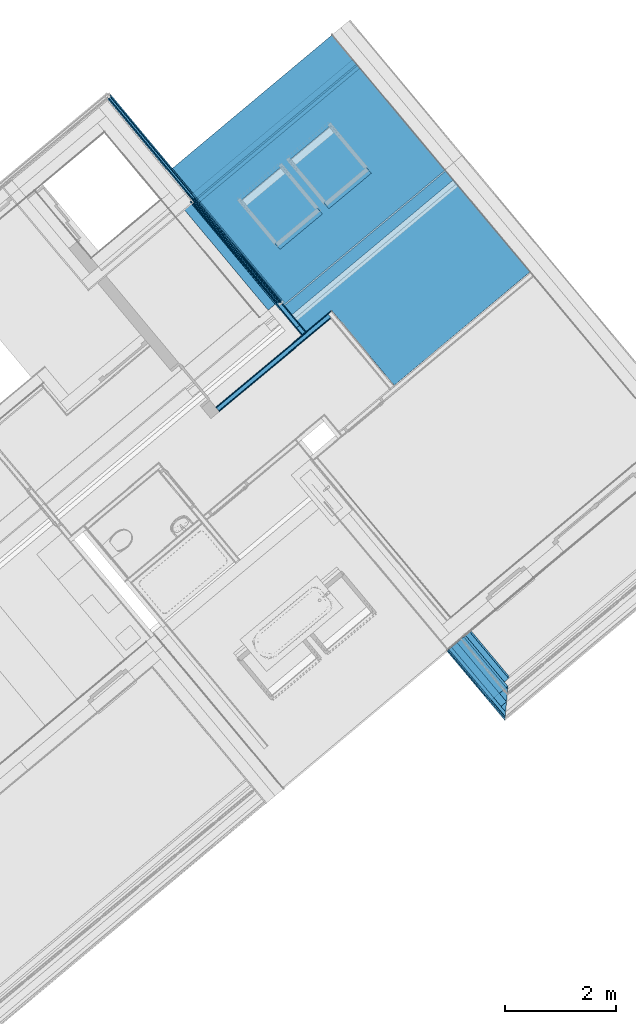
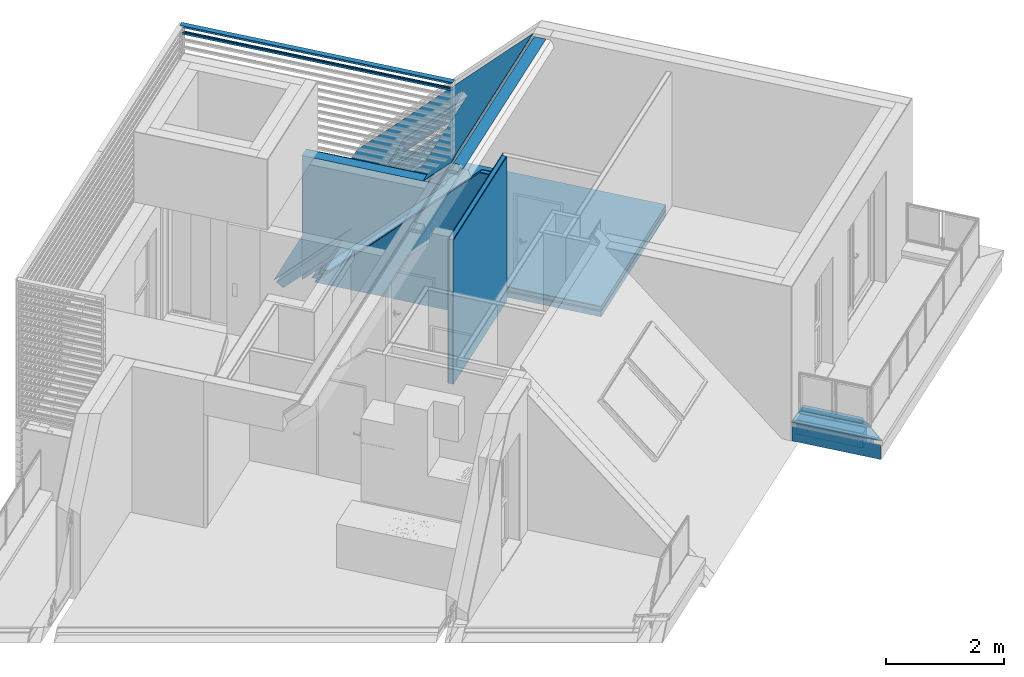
# One storey, part 29 of 47: 24 building element parts, 2 openings, 7 elements without a shape of their own.
"""IFC4 building model written with IfcOpenShell, lengths in metres."""

from ifc_helpers import new_model, entity, si_unit, converted_unit, derived_unit, direction, frame, origin_with_axes, place, context, subcontext, project, spatial, polygons, material, type_object, element, aggregate, save


model = new_model("IFC4")

# Units and contexts
model_context = context("Model", 3, precision=1e-05, world=origin_with_axes(), true_north=direction((0.0, 1.0)))
body_context = subcontext(model_context, "Body", "Model", "MODEL_VIEW")
ifc_project = project(units=[si_unit("LENGTHUNIT", "METRE"), si_unit("AREAUNIT", "SQUARE_METRE"), si_unit("VOLUMEUNIT", "CUBIC_METRE"), converted_unit("PLANEANGLEUNIT", "DEGREE", entity("IfcPlaneAngleMeasure", 0.0174532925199), si_unit("PLANEANGLEUNIT", "RADIAN"), dimensions=[0, 0, 0, 0, 0, 0, 0]), converted_unit("TIMEUNIT", "Year", entity("IfcTimeMeasure", 31556926.0), si_unit("TIMEUNIT", "SECOND"), dimensions=[0, 0, 1, 0, 0, 0, 0]), si_unit("MASSUNIT", "GRAM", prefix="KILO"), si_unit("THERMODYNAMICTEMPERATUREUNIT", "DEGREE_CELSIUS"), si_unit("LUMINOUSINTENSITYUNIT", "LUMEN"), si_unit("ENERGYUNIT", "JOULE", prefix="MEGA"), derived_unit("THERMALCONDUCTANCEUNIT", [(si_unit("POWERUNIT", "WATT"), 1), (si_unit("LENGTHUNIT", "METRE"), -1), (si_unit("THERMODYNAMICTEMPERATUREUNIT", "KELVIN"), -1)]), derived_unit("SPECIFICHEATCAPACITYUNIT", [(si_unit("ENERGYUNIT", "JOULE"), 1), (si_unit("MASSUNIT", "GRAM", prefix="KILO"), -1), (si_unit("THERMODYNAMICTEMPERATUREUNIT", "KELVIN"), -1)]), derived_unit("MASSDENSITYUNIT", [(si_unit("MASSUNIT", "GRAM", prefix="KILO"), 1), (si_unit("VOLUMEUNIT", "CUBIC_METRE"), -1)])], contexts=[model_context])

# Site, building, storey
site_placement = place(None, frame((-0.00153261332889, -0.00661245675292, 0.0), z_axis=(0.0, 0.0, 1.0), x_axis=(1.0, 0.0, 0.0)))
site = spatial("IfcSite", under=ifc_project, at=site_placement, Name="Site", CompositionType="ELEMENT")
building_placement = place(site_placement, origin_with_axes())
building = spatial("IfcBuilding", under=site, at=building_placement, Name="Building", CompositionType="ELEMENT")
storey_placement = place(building_placement, frame((0.0, 0.0, 8.66), z_axis=(0.0, 0.0, 1.0), x_axis=(1.0, 0.0, 0.0)))
storey = spatial("IfcBuildingStorey", under=building, at=storey_placement, Name="DG2", CompositionType="ELEMENT", Elevation=8.66)

# Wall, building element parts
wall_type_1 = type_object("IfcWallType", Name="Bauteil - Attika Terrasse 1.DG 574 x 410", PredefinedType="NOTDEFINED")
wall_1_placement = place(storey_placement, frame((8.86706086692, 16.7682826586, -0.2), z_axis=(0.0, 0.0, 1.0), x_axis=(-0.641709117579, 0.766948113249, 0.0)))
wall_1 = element("IfcWall", 1, at=wall_1_placement, inside=storey, type_object=wall_type_1, Name="Wand-004", PredefinedType="NOTDEFINED")
ifc_material_1 = material(Name="Zementputz")
building_element_part_1_placement = place(wall_1_placement, origin_with_axes())
building_element_part_1 = element("IfcBuildingElementPart", 2, at=building_element_part_1_placement, material=ifc_material_1, Name="Zementputz", PredefinedType="NOTDEFINED", context=body_context, shape_type="Tessellation", body=[
    polygons([(-0.199999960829, 0.214999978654, 0.499999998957), (-0.199999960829, 0.199999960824, 0.499999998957), (1.39632208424, 0.199999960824, 0.499999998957), (1.39632208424, 0.214999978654, 0.499999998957), (-0.199999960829, 0.199999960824, 0.498822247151), (-0.199999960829, 0.214999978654, 0.498822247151), (-0.199999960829, 0.199999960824, 0.49100648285), (-0.199999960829, 0.199999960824, 0.488695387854), (-0.199999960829, 0.199999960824, 0.335), (-0.199999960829, 0.199999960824, 0.2), (1.39632208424, 0.199999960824, 0.2), (1.39632208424, 0.214999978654, 0.2), (-0.199999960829, 0.214999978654, 0.2), (-0.199999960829, 0.214999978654, 0.335), (-0.199999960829, 0.214999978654, 0.488695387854), (-0.199999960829, 0.214999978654, 0.49100648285)], [[[1, 2, 3, 4]], [[5, 2, 1, 6]], [[2, 5, 7, 8, 9, 10, 11, 3]], [[12, 4, 3, 11]], [[6, 1, 4, 12, 13, 14, 15, 16]], [[5, 6, 16, 7]], [[7, 16, 15, 8]], [[8, 15, 14, 9]], [[9, 14, 13, 10]], [[10, 13, 12, 11]]], closed=True),
])
ifc_material_2 = material(Name="Vollholz")
building_element_part_2_placement = place(wall_1_placement, origin_with_axes())
building_element_part_2 = element("IfcBuildingElementPart", 3, at=building_element_part_2_placement, material=ifc_material_2, Name="Vollholz", PredefinedType="NOTDEFINED", context=body_context, shape_type="Tessellation", body=[
    polygons([(-0.189984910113, 0.189984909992, 0.586106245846), (-0.130124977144, 0.130124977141, 0.584015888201), (1.39632208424, 0.130124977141, 0.584015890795), (1.39632208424, 0.189984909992, 0.586106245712), (-0.130124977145, 0.189996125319, 0.584015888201), (-0.130124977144, 0.130124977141, 0.575979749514), (-0.130124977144, 0.130124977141, 0.573880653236), (-0.130124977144, 0.130124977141, 0.567947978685), (-0.130124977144, 0.130124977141, 0.560000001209), (1.39632208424, 0.130124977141, 0.560000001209), (1.39632208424, 0.190124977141, 0.560000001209), (-0.130124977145, 0.190124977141, 0.560000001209), (-0.130124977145, 0.190082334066, 0.567947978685), (-0.130124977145, 0.190050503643, 0.573880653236), (-0.130124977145, 0.190039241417, 0.575979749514)], [[[1, 2, 3, 4]], [[5, 2, 1]], [[2, 6, 7, 8, 9, 10, 3]], [[3, 10, 11, 4]], [[5, 1, 4, 11, 12, 13, 14, 15]], [[2, 5, 15, 6]], [[6, 15, 14, 7]], [[7, 14, 13, 8]], [[8, 13, 12, 9]], [[9, 12, 11, 10]]], closed=True),
])
ifc_material_3 = material(Name="EPS 1")
building_element_part_3_placement = place(wall_1_placement, origin_with_axes())
building_element_part_3 = element("IfcBuildingElementPart", 4, at=building_element_part_3_placement, material=ifc_material_3, Name="EPS 1", PredefinedType="NOTDEFINED", context=body_context, shape_type="Tessellation", body=[
    polygons([(-2.44570586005e-10, 0.19999996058, 0.499999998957), (-2.39910313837e-10, 2.39914754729e-10, 0.499999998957), (1.39632208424, 2.39911202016e-10, 0.499999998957), (1.39632208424, 0.19999996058, 0.499999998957), (-2.39909425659e-10, 2.39914754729e-10, 0.498822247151), (-2.44572362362e-10, 0.19999996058, 0.498822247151), (-2.39909425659e-10, 2.39914754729e-10, 0.49100648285), (-2.39909425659e-10, 2.39914754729e-10, 0.488695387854), (-2.39909425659e-10, 2.39914754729e-10, 0.335), (-2.39910313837e-10, 2.39914754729e-10, 0.2), (1.39632208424, 2.39911202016e-10, 0.2), (1.39632208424, 0.19999996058, 0.2), (-2.44570586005e-10, 0.19999996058, 0.2), (-2.44572362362e-10, 0.19999996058, 0.335), (-2.44572362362e-10, 0.19999996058, 0.488695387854), (-2.44572362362e-10, 0.19999996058, 0.49100648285)], [[[1, 2, 3, 4]], [[5, 2, 1, 6]], [[2, 5, 7, 8, 9, 10, 11, 3]], [[11, 12, 4, 3]], [[6, 1, 4, 12, 13, 14, 15, 16]], [[5, 6, 16, 7]], [[7, 16, 15, 8]], [[8, 15, 14, 9]], [[9, 14, 13, 10]], [[10, 13, 12, 11]]], closed=True),
])
ifc_material_4 = material(Name="Brettschichtholz")
building_element_part_4_placement = place(wall_1_placement, origin_with_axes())
building_element_part_4 = element("IfcBuildingElementPart", 5, at=building_element_part_4_placement, material=ifc_material_4, Name="Brettschichtholz", PredefinedType="NOTDEFINED", context=body_context, shape_type="Tessellation", body=[
    polygons([(0.200000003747, -0.159999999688, 0.559999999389), (0.200000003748, -0.200000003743, 0.559999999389), (1.39632208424, -0.200000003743, 0.559999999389), (1.39632208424, -0.159999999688, 0.559999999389), (0.200000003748, -0.200000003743, 0.519224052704), (0.200000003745, -0.100000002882, 0.559999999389), (0.20000000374, 0.130124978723, 0.559999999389), (0.200000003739, 0.190124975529, 0.559999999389), (0.200000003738, 0.214999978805, 0.559999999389), (0.200000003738, 0.214999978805, 0.519224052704), (0.200000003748, -0.200000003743, 0.511361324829), (0.200000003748, -0.200000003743, 0.50905023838), (0.200000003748, -0.200000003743, 0.500000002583), (1.39632208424, -0.200000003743, 0.500000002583), (1.39632208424, 0.214999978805, 0.499999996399), (1.39632208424, 0.214999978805, 0.559999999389), (1.39632208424, 0.190124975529, 0.559999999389), (1.39632208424, 0.130124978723, 0.559999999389), (1.39632208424, -0.100000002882, 0.559999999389), (0.200000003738, 0.214999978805, 0.500000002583), (0.200000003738, 0.214999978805, 0.50905023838), (0.200000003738, 0.214999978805, 0.511361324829)], [[[1, 2, 3, 4]], [[5, 2, 1, 6, 7, 8, 9, 10]], [[2, 5, 11, 12, 13, 14, 3]], [[14, 15, 16, 17, 18, 19, 4, 3]], [[6, 1, 4, 19]], [[7, 6, 19, 18]], [[8, 7, 18, 17]], [[9, 8, 17, 16]], [[10, 9, 16, 15, 20, 21, 22]], [[5, 10, 22, 11]], [[11, 22, 21, 12]], [[12, 21, 20, 13]], [[13, 20, 15, 14]]], closed=True),
])
ifc_material_5 = material(Name="Stahlbeton")
building_element_part_5_placement = place(wall_1_placement, origin_with_axes())
building_element_part_5 = element("IfcBuildingElementPart", 6, at=building_element_part_5_placement, material=ifc_material_5, Name="Stahlbeton", PredefinedType="NOTDEFINED", context=body_context, shape_type="Tessellation", body=[
    polygons([(0.199999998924, -1.8283543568e-09, 0.500000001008), (0.199999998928, -0.199999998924, 0.500000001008), (1.39632208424, -0.199999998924, 0.500000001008), (1.39632208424, -1.8283543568e-09, 0.500000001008), (0.199999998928, -0.199999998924, 0.498822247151), (0.199999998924, -1.8283543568e-09, 0.498822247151), (0.199999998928, -0.199999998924, 0.49100648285), (0.199999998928, -0.199999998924, 0.488695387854), (0.199999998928, -0.199999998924, 0.335), (1.39632208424, -0.199999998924, 0.335000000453), (1.39632208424, -0.199999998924, 0.2), (1.39632208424, -1.8283543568e-09, 0.2), (0.199999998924, -1.8283543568e-09, 0.2), (0.199999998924, -1.8283543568e-09, 0.335), (0.199999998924, -1.8283543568e-09, 0.488695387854), (0.199999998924, -1.8283543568e-09, 0.49100648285), (0.199999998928, -0.199999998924, 0.2)], [[[1, 2, 3, 4]], [[5, 2, 1, 6]], [[2, 5, 7, 8, 9, 10, 3]], [[11, 12, 4, 3, 10]], [[6, 1, 4, 12, 13, 14, 15, 16]], [[5, 6, 16, 7]], [[7, 16, 15, 8]], [[8, 15, 14, 9]], [[9, 17, 11, 10]], [[17, 13, 12, 11]], [[9, 14, 13, 17]]], closed=True),
])
building_element_part_6_placement = place(wall_1_placement, origin_with_axes())
building_element_part_6 = element("IfcBuildingElementPart", 7, at=building_element_part_6_placement, material=ifc_material_2, Name="Vollholz", PredefinedType="NOTDEFINED", context=body_context, shape_type="Tessellation", body=[
    polygons([(0.100000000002, -0.1, 0.575979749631), (0.160110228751, -0.160110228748, 0.573880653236), (1.39632208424, -0.160110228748, 0.573880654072), (1.39632208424, -0.1, 0.575979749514), (0.16011022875, -0.1, 0.573880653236), (0.160063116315, -0.160063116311, 0.567947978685), (0.160000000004, -0.16, 0.560000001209), (1.39632208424, -0.16, 0.560000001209), (1.39632208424, -0.1, 0.560000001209), (0.160000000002, -0.1, 0.560000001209), (0.160063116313, -0.1, 0.567947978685)], [[[1, 2, 3, 4]], [[5, 2, 1]], [[2, 6, 7, 8, 3]], [[3, 8, 9, 4]], [[5, 1, 4, 9, 10, 11]], [[2, 5, 11, 6]], [[6, 11, 10, 7]], [[7, 10, 9, 8]]], closed=True),
])
building_element_part_7_placement = place(wall_1_placement, origin_with_axes())
building_element_part_7 = element("IfcBuildingElementPart", 8, at=building_element_part_7_placement, material=ifc_material_3, Name="EPS 1", PredefinedType="NOTDEFINED", context=body_context, shape_type="Tessellation", body=[
    polygons([(0.300000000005, -0.2, 0.560000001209), (0.300000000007, -0.3, 0.560000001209), (1.39632208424, -0.3, 0.560000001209), (1.39632208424, -0.2, 0.560000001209), (0.300000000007, -0.3, 0.519224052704), (0.300000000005, -0.2, 0.519224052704), (0.300000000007, -0.3, 0.511361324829), (0.300000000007, -0.3, 0.50905023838), (0.300000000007, -0.3, 0.499999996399), (0.300000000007, -0.3, 0.498822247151), (0.300000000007, -0.3, 0.49100648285), (0.300000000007, -0.3, 0.488695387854), (0.300000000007, -0.3, 0.335), (1.39632208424, -0.3, 0.335), (1.39632208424, -0.2, 0.335), (0.300000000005, -0.2, 0.335), (0.300000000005, -0.2, 0.488695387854), (0.300000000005, -0.2, 0.49100648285), (0.300000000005, -0.2, 0.498822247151), (0.300000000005, -0.2, 0.499999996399), (0.300000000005, -0.2, 0.50905023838), (0.300000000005, -0.2, 0.511361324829)], [[[1, 2, 3, 4]], [[5, 2, 1, 6]], [[2, 5, 7, 8, 9, 10, 11, 12, 13, 14, 3]], [[14, 15, 4, 3]], [[6, 1, 4, 15, 16, 17, 18, 19, 20, 21, 22]], [[5, 6, 22, 7]], [[7, 22, 21, 8]], [[8, 21, 20, 9]], [[9, 20, 19, 10]], [[10, 19, 18, 11]], [[11, 18, 17, 12]], [[12, 17, 16, 13]], [[13, 16, 15, 14]]], closed=True),
])
ifc_material_6 = material(Name="Holzwerkstoff")
building_element_part_8_placement = place(wall_1_placement, origin_with_axes())
building_element_part_8 = element("IfcBuildingElementPart", 9, at=building_element_part_8_placement, material=ifc_material_6, Name="Holzwerkstoff", PredefinedType="NOTDEFINED", context=body_context, shape_type="Tessellation", body=[
    polygons([(1.39632208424, -0.100000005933, 0.575979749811), (1.39632208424, -0.160110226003, 0.573880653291), (0.330207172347, -0.160110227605, 0.573880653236), (0.33028047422, -0.100000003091, 0.57597974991), (1.39632208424, 0.189984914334, 0.586106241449), (1.39632208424, 0.239999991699, 0.587852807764), (1.39632208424, 0.239276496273, 0.608570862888), (1.39632208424, -0.330698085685, 0.587938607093), (1.39632208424, -0.329999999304, 0.567947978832), (1.39632208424, 0.130124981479, 0.584015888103), (0.32999999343, -0.329999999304, 0.567947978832), (0.330207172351, -0.330207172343, 0.573880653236), (0.330280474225, -0.330280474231, 0.57597974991), (0.330561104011, 0.13012498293, 0.584015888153), (0.330634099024, 0.189984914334, 0.586106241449), (0.330695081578, 0.239999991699, 0.587852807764), (0.330698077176, 0.23999699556, 0.587938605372), (-0.239276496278, 0.239276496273, 0.608570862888), (0.330698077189, -0.330698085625, 0.587938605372), (0.330634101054, -0.330634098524, 0.586106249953), (0.330561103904, -0.330561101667, 0.584015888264)], [[[1, 2, 3, 4]], [[5, 6, 7, 8, 9, 2, 1, 10]], [[2, 9, 11, 3]], [[4, 3, 12, 13]], [[10, 1, 4, 14]], [[6, 5, 15, 16]], [[6, 16, 17, 18, 7]], [[8, 7, 18, 19]], [[9, 8, 19, 20, 21, 13, 12, 11]], [[5, 10, 14, 15]], [[11, 12, 3]], [[14, 4, 13, 21]], [[16, 15, 20, 19, 17]], [[18, 17, 19]], [[15, 14, 21, 20]]], closed=True),
])
aggregate(wall_1, [building_element_part_1, building_element_part_2, building_element_part_3, building_element_part_4, building_element_part_5, building_element_part_6, building_element_part_7, building_element_part_8])

wall_type_2 = type_object("IfcWallType", Name="IW LB 01 Leichtbautrennwand einfach 10,5 cm 105", PredefinedType="NOTDEFINED")
wall_2_placement = place(storey_placement, frame((5.70401379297, 23.8415835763, 0.0), z_axis=(0.0, 0.0, 1.0), x_axis=(-0.767670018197, -0.640845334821, 0.0)))
wall_2 = element("IfcWall", 10, at=wall_2_placement, inside=storey, type_object=wall_type_2, Name="Wand-014", PredefinedType="NOTDEFINED")
ifc_material_7 = material(Name="Gipskarton")
building_element_part_9_placement = place(wall_2_placement, origin_with_axes())
building_element_part_9 = element("IfcBuildingElementPart", 11, at=building_element_part_9_placement, material=ifc_material_7, Name="Gipskarton", PredefinedType="NOTDEFINED", context=body_context, shape_type="Tessellation", body=[
    polygons([(2.72786789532, 0.09, 0.0), (0.104958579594, 0.09, 0.0), (0.104951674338, 0.105, 0.0), (2.72786744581, 0.105, 0.0), (2.72786789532, 0.09, 2.98), (0.104958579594, 0.09, 2.98), (0.104951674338, 0.105, 2.98), (2.72786744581, 0.105, 2.98)], [[[1, 2, 3, 4]], [[5, 6, 2, 1]], [[3, 2, 6, 7]], [[4, 3, 7, 8]], [[4, 8, 5, 1]], [[8, 7, 6, 5]]], closed=True),
])
ifc_material_8 = material(Name="Mineralwolle weich")
building_element_part_10_placement = place(wall_2_placement, origin_with_axes())
building_element_part_10 = element("IfcBuildingElementPart", 12, at=building_element_part_10_placement, material=ifc_material_8, Name="Mineralwolle weich", PredefinedType="NOTDEFINED", context=body_context, shape_type="Tessellation", body=[
    polygons([(2.72787014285, 0.015, 0.0), (0.0899931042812, 0.015, 0.0), (0.0899585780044, 0.09, 0.0), (2.72786789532, 0.09, 0.0), (2.72787014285, 0.015, 2.98), (0.0899931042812, 0.015, 2.98), (0.0899585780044, 0.09, 2.98), (2.72786789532, 0.09, 2.98)], [[[1, 2, 3, 4]], [[5, 6, 2, 1]], [[3, 2, 6, 7]], [[4, 3, 7, 8]], [[4, 8, 5, 1]], [[8, 7, 6, 5]]], closed=True),
])
building_element_part_11_placement = place(wall_2_placement, origin_with_axes())
building_element_part_11 = element("IfcBuildingElementPart", 13, at=building_element_part_11_placement, material=ifc_material_7, Name="Gipskarton", PredefinedType="NOTDEFINED", context=body_context, shape_type="Tessellation", body=[
    polygons([(2.72787059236, 0.0, 0.0), (0.0150000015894, 0.0, 0.0), (0.0149930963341, 0.015, 0.0), (2.72787014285, 0.015, 0.0), (2.72787059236, 0.0, 2.98), (0.0150000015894, 0.0, 2.98), (0.0149930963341, 0.015, 2.98), (2.72787014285, 0.015, 2.98)], [[[1, 2, 3, 4]], [[5, 6, 2, 1]], [[3, 2, 6, 7]], [[4, 3, 7, 8]], [[4, 8, 5, 1]], [[8, 7, 6, 5]]], closed=True),
])
aggregate(wall_2, [building_element_part_9, building_element_part_10, building_element_part_11])

# Curtain wall, building element parts
curtain_wall_type = type_object("IfcCurtainWallType", Name="Fassadentyp", PredefinedType="NOTDEFINED")
curtain_wall_placement = place(storey_placement, frame((3.22758193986, 25.8519152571, 0.32), z_axis=(0.0, 0.0, 1.0), x_axis=(1.0, 0.0, 0.0)))
curtain_wall = element("IfcCurtainWall", 14, at=curtain_wall_placement, inside=storey, type_object=curtain_wall_type, Name="Fassade-001", PredefinedType="NOTDEFINED")
ifc_material_9 = material(Name="Blech")
building_element_part_12_placement = place(curtain_wall_placement, origin_with_axes())
building_element_part_12 = element("IfcBuildingElementPart", 15, at=building_element_part_12_placement, material=ifc_material_9, Name="Blech", PredefinedType="NOTDEFINED", context=body_context, shape_type="Tessellation", body=[
    polygons([(-1.56506390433, 1.85045496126, 4.2), (-1.56506390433, 1.85045496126, 4.22), (1.54203854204, -1.86968599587, 4.22), (1.54203854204, -1.86968599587, 4.2), (1.54203854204, -1.86968599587, 4.18), (-1.56506390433, 1.85045496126, 4.18), (-1.57657658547, 1.84083944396, 4.18), (-1.57657658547, 1.84083944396, 4.22), (1.5305258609, -1.87930151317, 4.22), (1.5305258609, -1.87930151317, 4.18)], [[[1, 2, 3, 4, 5, 6]], [[6, 7, 8, 2, 1]], [[3, 2, 8, 9]], [[4, 3, 9, 10, 5]], [[5, 10, 7, 6]], [[10, 9, 8, 7]]], closed=True),
    polygons([(1.56506390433, -1.85045496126, 4.18), (1.57657658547, -1.84083944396, 4.18), (1.57657658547, -1.84083944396, 4.22), (1.56506390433, -1.85045496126, 4.22), (1.56506390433, -1.85045496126, 4.2), (-1.54203854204, 1.86968599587, 4.18), (-1.5305258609, 1.87930151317, 4.18), (-1.5305258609, 1.87930151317, 4.22), (-1.54203854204, 1.86968599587, 4.22), (-1.54203854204, 1.86968599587, 4.2)], [[[1, 2, 3, 4, 5]], [[6, 7, 2, 1]], [[3, 2, 7, 8]], [[9, 4, 3, 8]], [[5, 4, 9, 10, 6, 1]], [[10, 9, 8, 7, 6]]], closed=True),
])
building_element_part_13_placement = place(curtain_wall_placement, origin_with_axes())
building_element_part_13 = element("IfcBuildingElementPart", 16, at=building_element_part_13_placement, material=ifc_material_9, Name="Blech", PredefinedType="NOTDEFINED", context=body_context, shape_type="Tessellation", body=[
    polygons([(1.55485923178, -1.88503623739, 4.35000006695), (1.57788459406, -1.86580520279, 4.35000006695), (1.56506390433, -1.85045496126, 4.33000006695), (1.59192682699, -1.82801875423, 4.33000006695), (1.61756820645, -1.85871923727, 4.37000006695), (1.54081699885, -1.92282268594, 4.37000006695), (1.51517561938, -1.8921222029, 4.33000006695), (1.54203854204, -1.86968599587, 4.33000006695), (-1.57788459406, 1.86580520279, 4.35000006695), (-1.55485923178, 1.88503623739, 4.35000006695), (-1.54203854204, 1.86968599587, 4.33000006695), (-1.51517561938, 1.8921222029, 4.33000006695), (-1.54081699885, 1.92282268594, 4.37000006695), (-1.61756820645, 1.85871923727, 4.37000006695), (-1.59192682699, 1.82801875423, 4.33000006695), (-1.56506390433, 1.85045496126, 4.33000006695)], [[[1, 2, 3, 4, 5, 6, 7, 8]], [[2, 1, 9, 10]], [[11, 3, 2, 10]], [[3, 11, 12, 4]], [[5, 4, 12, 13]], [[6, 5, 13, 14]], [[7, 6, 14, 15]], [[16, 8, 7, 15]], [[1, 8, 16, 9]], [[9, 16, 15, 14, 13, 12, 11, 10]]], closed=True),
])
aggregate(curtain_wall, [building_element_part_12, building_element_part_13])

# Wall, building element parts
wall_3_placement = place(storey_placement, frame((5.2437894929, 23.4573916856, 0.0), z_axis=(0.0, 0.0, 1.0), x_axis=(-0.641307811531, 0.767283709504, 0.0)))
wall_3 = element("IfcWall", 17, at=wall_3_placement, inside=storey, type_object=wall_type_2, Name="Wand-014", PredefinedType="NOTDEFINED")
building_element_part_14_placement = place(wall_3_placement, origin_with_axes())
building_element_part_14 = element("IfcBuildingElementPart", 18, at=building_element_part_14_placement, material=ifc_material_7, Name="Gipskarton", PredefinedType="NOTDEFINED", context=body_context, shape_type="Tessellation", body=[
    polygons([(3.14396847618, 0.09, 0.0), (0.163968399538, 0.09, 2.98), (5.42334363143e-05, 0.09, 2.98), (5.42334363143e-05, 0.09, 0.0), (0.163971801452, 0.105, 2.98), (3.14397188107, 0.105000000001, -2.97520585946e-09), (6.32723423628e-05, 0.105, 2.98), (6.32723423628e-05, 0.105, 0.0)], [[[1, 2, 3, 4]], [[5, 2, 1, 6]], [[2, 5, 7, 3]], [[4, 3, 7, 8]], [[6, 1, 4, 8]], [[5, 6, 8, 7]]], closed=True),
])
building_element_part_15_placement = place(wall_3_placement, origin_with_axes())
building_element_part_15 = element("IfcBuildingElementPart", 19, at=building_element_part_15_placement, material=ifc_material_8, Name="Mineralwolle weich", PredefinedType="NOTDEFINED", context=body_context, shape_type="Tessellation", body=[
    polygons([(3.14395146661, 0.015, 0.0), (0.163947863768, 0.0149999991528, 2.9800035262), (9.03890605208e-06, 0.015, 2.98), (9.03890605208e-06, 0.015, 0.0), (0.163968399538, 0.09, 2.98), (3.14397018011, 0.0900000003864, -1.70393192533e-06), (5.42334363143e-05, 0.09, 2.98), (5.42334363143e-05, 0.09, 0.0)], [[[1, 2, 3, 4]], [[5, 2, 1, 6]], [[2, 5, 7, 3]], [[4, 3, 7, 8]], [[6, 1, 4, 8]], [[5, 6, 8, 7]]], closed=True),
])
building_element_part_16_placement = place(wall_3_placement, origin_with_axes())
building_element_part_16 = element("IfcBuildingElementPart", 20, at=building_element_part_16_placement, material=ifc_material_7, Name="Gipskarton", PredefinedType="NOTDEFINED", context=body_context, shape_type="Tessellation", body=[
    polygons([(3.1439480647, 0.0, 0.0), (0.163947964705, 0.0, 2.98000002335), (0.0, 0.0, 2.98), (0.0, 0.0, 0.0), (0.163951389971, 0.015, 2.98), (3.14395146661, 0.015, 0.0), (9.03890605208e-06, 0.015, 2.98), (9.03890605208e-06, 0.015, 0.0)], [[[1, 2, 3, 4]], [[5, 2, 1, 6]], [[2, 5, 7, 3]], [[4, 3, 7, 8]], [[6, 1, 4, 8]], [[5, 6, 8, 7]]], closed=True),
])
aggregate(wall_3, [building_element_part_14, building_element_part_15, building_element_part_16])

# Covering, building element parts
covering_type = type_object("IfcCoveringType", Name="DE 01 Decke Wohnung/Wohnung Parkett 220", PredefinedType="NOTDEFINED")
covering_placement = place(storey_placement, frame((6.83696947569, 22.4856827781, 0.22), z_axis=(0.0, 0.0, 1.0), x_axis=(1.0, 0.0, 0.0)))
covering = element("IfcCovering", 21, at=covering_placement, inside=storey, type_object=covering_type, Name="Decke-009", PredefinedType="NOTDEFINED")
ifc_material_10 = material(Name="Parkett")
building_element_part_17_placement = place(covering_placement, origin_with_axes())
building_element_part_17 = element("IfcBuildingElementPart", 22, at=building_element_part_17_placement, material=ifc_material_10, Name="Parkett", PredefinedType="NOTDEFINED", context=body_context, shape_type="Tessellation", body=[
    polygons([(-0.620803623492, 5.73266490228, -0.015), (-0.611185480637, 5.72115441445, 0.0), (2.45515313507, 2.05152152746, 0.0), (2.45515313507, 2.05152152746, -0.015), (-3.52550376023, 3.28644375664, 0.0), (-3.53511644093, 3.29795880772, -0.015), (-1.59317998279, 0.971708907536, 0.0), (-1.13295568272, 1.35590079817, 0.0), (0.0, 0.0, 0.0), (0.0, 0.0, -0.015), (-1.13295568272, 1.35590079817, -0.015), (-1.59317998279, 0.971708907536, -0.015)], [[[1, 2, 3, 4]], [[5, 2, 1, 6]], [[2, 5, 7, 8, 9, 3]], [[10, 4, 3, 9]], [[6, 1, 4, 10, 11, 12]], [[5, 6, 12, 7]], [[7, 12, 11, 8]], [[8, 11, 10, 9]]], closed=True),
])
ifc_material_11 = material(Name="Estrich")
building_element_part_18_placement = place(covering_placement, origin_with_axes())
building_element_part_18 = element("IfcBuildingElementPart", 23, at=building_element_part_18_placement, material=ifc_material_11, Name="Estrich", PredefinedType="NOTDEFINED", context=body_context, shape_type="Tessellation", body=[
    polygons([(-0.662482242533, 5.7825436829, -0.08), (-0.620803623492, 5.73266490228, -0.015), (2.45515313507, 2.05152152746, -0.015), (2.45515313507, 2.05152152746, -0.08), (-3.53511644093, 3.29795880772, -0.015), (-3.57677139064, 3.34785736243, -0.08), (-1.59317998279, 0.971708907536, -0.015), (-1.13295568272, 1.35590079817, -0.015), (0.0, 0.0, -0.015), (0.0, 0.0, -0.08), (-1.13295568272, 1.35590079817, -0.08), (-1.59317998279, 0.971708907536, -0.08)], [[[1, 2, 3, 4]], [[5, 2, 1, 6]], [[2, 5, 7, 8, 9, 3]], [[10, 4, 3, 9]], [[6, 1, 4, 10, 11, 12]], [[5, 6, 12, 7]], [[7, 12, 11, 8]], [[8, 11, 10, 9]]], closed=True),
])
ifc_material_12 = material(Name="Trittschalldämmung")
building_element_part_19_placement = place(covering_placement, origin_with_axes())
building_element_part_19 = element("IfcBuildingElementPart", 24, at=building_element_part_19_placement, material=ifc_material_12, Name="Trittschalldämmung", PredefinedType="NOTDEFINED", context=body_context, shape_type="Tessellation", body=[
    polygons([(-0.681718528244, 5.80556465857, -0.11), (-0.662482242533, 5.7825436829, -0.08), (2.45515313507, 2.05152152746, -0.08), (2.45515313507, 2.05152152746, -0.11), (-3.57677139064, 3.34785736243, -0.08), (-3.59599675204, 3.3708874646, -0.11), (-1.59317998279, 0.971708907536, -0.08), (-1.13295568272, 1.35590079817, -0.08), (0.0, 0.0, -0.08), (0.0, 0.0, -0.11), (-1.13295568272, 1.35590079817, -0.11), (-1.59317998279, 0.971708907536, -0.11)], [[[1, 2, 3, 4]], [[5, 2, 1, 6]], [[2, 5, 7, 8, 9, 3]], [[10, 4, 3, 9]], [[6, 1, 4, 10, 11, 12]], [[5, 6, 12, 7]], [[7, 12, 11, 8]], [[8, 11, 10, 9]]], closed=True),
])
ifc_material_13 = material(Name="Schüttung")
building_element_part_20_placement = place(covering_placement, origin_with_axes())
building_element_part_20 = element("IfcBuildingElementPart", 25, at=building_element_part_20_placement, material=ifc_material_13, Name="Schüttung", PredefinedType="NOTDEFINED", context=body_context, shape_type="Tessellation", body=[
    polygons([(-0.752251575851, 5.8899749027, -0.22), (-0.681718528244, 5.80556465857, -0.11), (2.45515313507, 2.05152152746, -0.11), (2.45515313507, 2.05152152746, -0.22), (-3.59599675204, 3.3708874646, -0.11), (-3.66648974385, 3.45533117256, -0.22), (-1.59317998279, 0.971708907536, -0.11), (-1.13295568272, 1.35590079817, -0.11), (0.0, 0.0, -0.11), (0.0, 0.0, -0.22), (-1.13295568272, 1.35590079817, -0.22), (-1.59317998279, 0.971708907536, -0.22)], [[[1, 2, 3, 4]], [[5, 2, 1, 6]], [[2, 5, 7, 8, 9, 3]], [[10, 4, 3, 9]], [[6, 1, 4, 10, 11, 12]], [[5, 6, 12, 7]], [[8, 7, 12, 11]], [[9, 8, 11, 10]]], closed=True),
])
aggregate(covering, [building_element_part_17, building_element_part_18, building_element_part_19, building_element_part_20])

# Wall, building element parts
wall_type_3 = type_object("IfcWallType", Name="AW EG 420", PredefinedType="NOTDEFINED")
wall_4_placement = place(storey_placement, frame((3.07610660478, 25.9561233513, 0.0), z_axis=(0.0, 0.0, 1.0), x_axis=(0.640875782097, -0.767644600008, 0.0)))
wall_4 = element("IfcWall", 26, at=wall_4_placement, inside=storey, type_object=wall_type_3, Name="Wand-002", PredefinedType="NOTDEFINED")
building_element_part_21_placement = place(wall_4_placement, origin_with_axes())
building_element_part_21 = element("IfcBuildingElementPart", 27, at=building_element_part_21_placement, material=ifc_material_1, Name="Zementputz", PredefinedType="NOTDEFINED", context=body_context, shape_type="Tessellation", body=[
    polygons([(3.26245261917e-06, -0.0150000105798, 2.69), (3.26245261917e-06, -0.0150000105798, 0.119414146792), (2.57058840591, -0.015, 2.69), (0.0, 3.87430532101e-09, 2.69), (0.0, 3.87430532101e-09, 0.119416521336), (2.57058840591, 0.0, 2.69)], [[[1, 2, 3]], [[2, 1, 4, 5]], [[2, 5, 6, 3]], [[4, 1, 3, 6]], [[4, 6, 5]]], closed=True),
])
building_element_part_22_placement = place(wall_4_placement, origin_with_axes())
building_element_part_22 = element("IfcBuildingElementPart", 28, at=building_element_part_22_placement, material=ifc_material_3, Name="EPS 1", PredefinedType="NOTDEFINED", context=body_context, shape_type="Tessellation", body=[
    polygons([(4.67617913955e-05, -0.215000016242, 0.119382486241), (4.67617913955e-05, -0.215000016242, 2.69), (3.26245261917e-06, -0.0150000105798, 2.69), (3.26245261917e-06, -0.0150000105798, 0.119414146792), (2.57058840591, -0.215, 2.68992394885), (2.57058840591, -0.215, 2.69), (2.57058840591, -0.015, 2.69)], [[[1, 2, 3, 4]], [[2, 1, 5, 6]], [[2, 6, 7, 3]], [[3, 7, 4]], [[1, 4, 7, 5]], [[6, 5, 7]]], closed=True),
])
aggregate(wall_4, [building_element_part_21, building_element_part_22])

# Roof, openings, building element parts
roof_type = type_object("IfcRoofType", Name="Schrägdach Dachaufbau 210", PredefinedType="NOTDEFINED")
roof_placement = place(storey_placement, frame((2.43778866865, 26.3737111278, -0.518984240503), z_axis=(0.0, 0.0, 1.0), x_axis=(0.767429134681, 0.64113377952, 0.0)))
roof = element("IfcRoof", 29, at=roof_placement, inside=storey, type_object=roof_type, Name="Dach-001", PredefinedType="NOTDEFINED")
opening_1_placement = place(roof_placement, frame((2.52396238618, -1.46460728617, 1.24260789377), z_axis=(0.0, 0.0, 1.0), x_axis=(1.0, 0.0, 0.0)))
element("IfcOpeningElement", 30, at=opening_1_placement, cuts=roof, Name="DFenst-002", context=body_context, identifier="Reference", shape_type="Tessellation", body=[
    polygons([(-0.5, -1.1313708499, 1.6503550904), (0.5, -1.1313708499, 1.6503550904), (0.5, -1.13066374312, 1.65106219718), (-0.5, -1.13066374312, 1.65106219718), (-0.5, -1.42976991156, 1.6503550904), (0.5, -1.42976991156, 1.6503550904), (0.5, 0.0, 0.518984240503), (0.5, 0.000707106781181, 0.519691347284), (-0.5, 0.000707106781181, 0.519691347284), (-0.5, 0.0, 0.518984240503), (-0.5, 0.0, 0.220585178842), (0.5, 0.0, 0.220585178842)], [[[1, 2, 3, 4]], [[2, 1, 5, 6]], [[2, 7, 8, 3]], [[3, 8, 9, 4]], [[10, 1, 4, 9]], [[1, 10, 11, 5]], [[5, 11, 12, 6]], [[7, 2, 6, 12]], [[7, 10, 9, 8]], [[10, 7, 12, 11]]], closed=True),
])
opening_2_placement = place(roof_placement, frame((1.37397891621, -1.46238046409, 1.24038107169), z_axis=(0.0, 0.0, 1.0), x_axis=(1.0, 0.0, 0.0)))
element("IfcOpeningElement", 31, at=opening_2_placement, cuts=roof, Name="DFenst-002", context=body_context, identifier="Reference", shape_type="Tessellation", body=[
    polygons([(-0.5, -1.1313708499, 1.6503550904), (0.5, -1.1313708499, 1.6503550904), (0.5, -1.13066374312, 1.65106219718), (-0.5, -1.13066374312, 1.65106219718), (-0.5, -1.42976991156, 1.6503550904), (0.5, -1.42976991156, 1.6503550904), (0.5, 0.0, 0.518984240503), (0.5, 0.000707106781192, 0.519691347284), (-0.5, 0.000707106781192, 0.519691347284), (-0.5, 0.0, 0.518984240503), (-0.5, 0.0, 0.220585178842), (0.5, 0.0, 0.220585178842)], [[[1, 2, 3, 4]], [[2, 1, 5, 6]], [[2, 7, 8, 3]], [[3, 8, 9, 4]], [[10, 1, 4, 9]], [[1, 10, 11, 5]], [[5, 11, 12, 6]], [[7, 2, 6, 12]], [[7, 10, 9, 8]], [[10, 7, 12, 11]]], closed=True),
])
ifc_material_14 = material(Name="Stehfalz")
building_element_part_23_placement = place(roof_placement, origin_with_axes())
building_element_part_23 = element("IfcBuildingElementPart", 32, at=building_element_part_23_placement, material=ifc_material_14, Name="Stehfalz", PredefinedType="NOTDEFINED", context=body_context, shape_type="Tessellation", body=[
    polygons([(0.00619434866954, -3.42092199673, 3.71790684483), (0.221229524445, -3.42090077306, 3.71788562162), (0.221234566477, -3.40590075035, 3.70288559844), (4.08297533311, -3.40551960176, 3.70250444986), (4.08708111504, -0.222046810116, 0.519031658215), (0.00694705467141, -0.222998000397, 0.519982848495), (2.02396238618, -1.46460728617, 1.76159213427), (3.02396238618, -1.46460728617, 1.76159213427), (3.02396238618, -2.59597813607, 2.89296298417), (2.02396238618, -2.59597813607, 2.89296298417), (0.873978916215, -2.59375131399, 2.89073616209), (0.873978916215, -1.46238046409, 1.75936531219), (1.87397891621, -1.46238046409, 1.75936531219), (1.87397891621, -2.59375131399, 2.89073616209), (0.221229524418, -3.42090077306, 3.703743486), (0.00619539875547, -3.42092199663, 3.7089842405), (0.00622952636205, -3.42092199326, 3.7089842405), (0.00622952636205, -3.42092199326, 3.70376470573), (0.22123456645, -3.4059007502, 3.68874346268), (4.08298445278, -3.40551960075, 3.68836231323), (4.08707991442, -0.230048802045, 0.51289151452), (0.00694683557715, -0.230999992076, 0.513842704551), (0.00619478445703, -3.42614152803, 3.7089842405), (2.02396238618, -1.46460728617, 1.74744999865), (3.02396238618, -1.46460728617, 1.74744999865), (3.02396238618, -2.6101202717, 2.89296298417), (2.02396238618, -2.6101202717, 2.89296298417), (0.873978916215, -2.60789344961, 2.89073616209), (0.873978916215, -1.46238046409, 1.74522317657), (1.87397891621, -1.46238046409, 1.74522317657), (1.87397891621, -2.60789344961, 2.89073616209), (0.00622777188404, -3.42614152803, 3.7089842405)], [[[1, 2, 3, 4, 5, 6], [7, 8, 9, 10], [11, 12, 13, 14]], [[15, 2, 1, 16, 17, 18]], [[2, 15, 19, 3]], [[20, 4, 3, 19]], [[4, 20, 21, 5]], [[21, 22, 6, 5]], [[16, 1, 6, 22, 23]], [[8, 7, 24, 25]], [[25, 26, 9, 8]], [[26, 27, 10, 9]], [[27, 24, 7, 10]], [[11, 28, 29, 12]], [[30, 13, 12, 29]], [[13, 30, 31, 14]], [[14, 31, 28, 11]], [[23, 32, 17, 16]], [[32, 18, 17]], [[32, 23, 22, 21, 20, 19, 15, 18], [24, 27, 26, 25], [30, 29, 28, 31]]], closed=True),
])
building_element_part_24_placement = place(roof_placement, origin_with_axes())
building_element_part_24 = element("IfcBuildingElementPart", 33, at=building_element_part_24_placement, material=ifc_material_3, Name="EPS 1", PredefinedType="NOTDEFINED", context=body_context, shape_type="Tessellation", body=[
    polygons([(4.08286574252, -3.63898424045, 3.6389842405), (4.08705590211, -0.390088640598, 0.390088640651), (4.08707391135, -0.270058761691, 0.482190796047), (4.08300253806, -3.42685220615, 3.6389842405), (0.00617797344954, -3.63898424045, 3.6389842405), (0.0069424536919, -0.391039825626, 0.391039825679), (2.02396238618, -2.89296298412, 2.89296298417), (3.02396238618, -2.89296298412, 2.89296298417), (3.02396238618, -1.46460728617, 1.46460728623), (2.02396238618, -1.46460728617, 1.46460728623), (0.873978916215, -1.46238046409, 1.46238046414), (0.873978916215, -2.89073616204, 2.89073616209), (1.87397891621, -2.89073616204, 2.89073616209), (1.87397891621, -1.46238046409, 1.46238046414), (0.00694574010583, -0.271009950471, 0.483141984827), (0.00620400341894, -3.49685220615, 3.7089842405), (0.00622753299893, -3.42685220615, 3.6389842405), (0.00618646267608, -3.49685220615, 3.7089842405), (3.02396238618, -1.46460728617, 1.67673932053), (3.02396238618, -2.68083094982, 2.89296298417), (2.02396238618, -2.68083094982, 2.89296298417), (2.02396238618, -1.46460728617, 1.67673932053), (0.873978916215, -1.46238046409, 1.67451249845), (1.87397891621, -1.46238046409, 1.67451249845), (1.87397891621, -2.67860412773, 2.89073616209), (0.873978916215, -2.67860412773, 2.89073616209), (0.00618968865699, -3.53943831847, 3.6389842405), (0.00617701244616, -3.57714977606, 3.7089842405)], [[[1, 2, 3, 4]], [[1, 5, 6, 2], [7, 8, 9, 10], [11, 12, 13, 14]], [[6, 15, 3, 2]], [[16, 17, 4, 3, 15, 18], [19, 20, 21, 22], [23, 24, 25, 26]], [[5, 1, 4, 17, 27]], [[5, 27, 28, 18, 15, 6]], [[7, 21, 20, 8]], [[8, 20, 19, 9]], [[22, 10, 9, 19]], [[10, 22, 21, 7]], [[12, 11, 23, 26]], [[13, 12, 26, 25]], [[14, 13, 25, 24]], [[24, 23, 11, 14]], [[16, 28, 27, 17]], [[16, 18, 28]]], closed=True),
])
aggregate(roof, [building_element_part_23, building_element_part_24])

save(model, "model.ifc")
